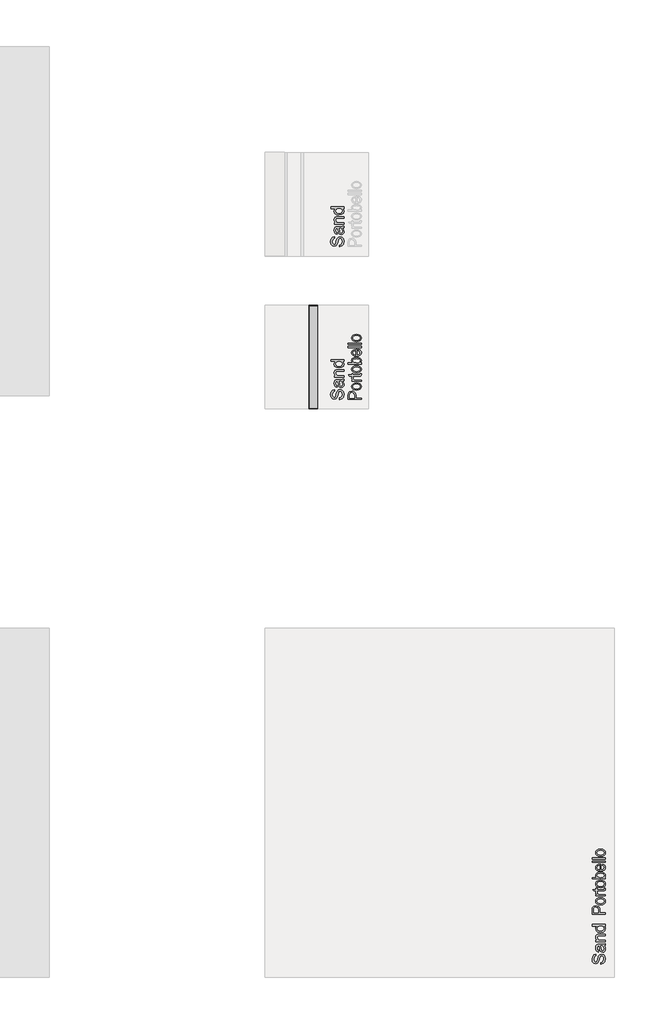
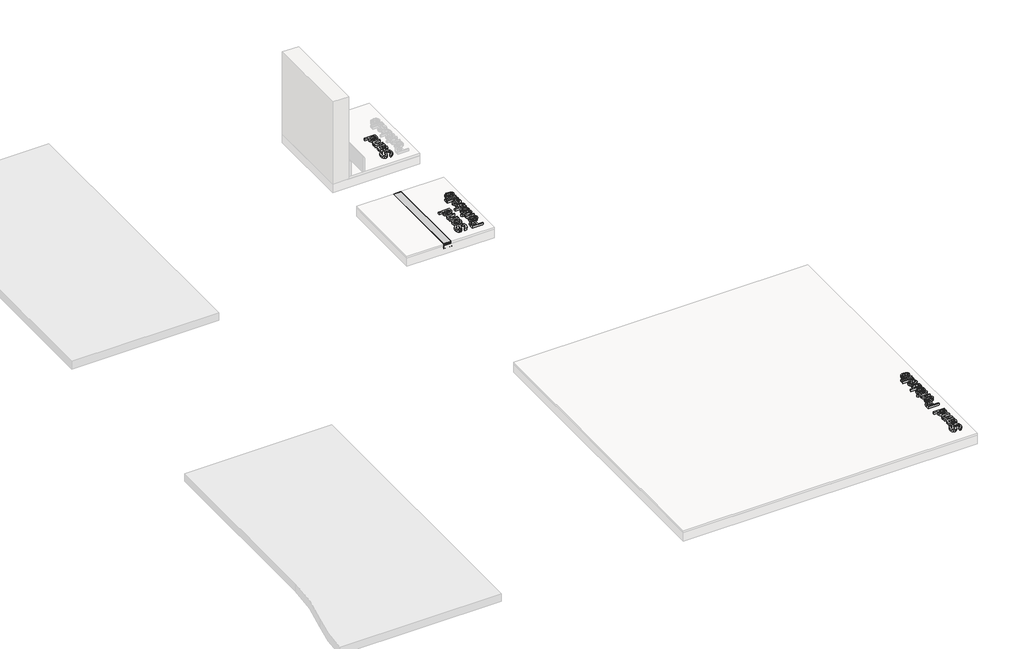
# One storey, part 4 of 6: 6 proxies.
"""IFC4 building model written with IfcOpenShell, lengths in millimetres."""

from ifc_helpers import new_model, si_unit, frame, origin, place, context, project, spatial, polyline, outline, extrude, transform, mapped, element, save
from components import line_sand_7a71f259

model = new_model("IFC4")

# Units and contexts
model_context = context("Model", 3, world=origin())
ifc_project = project(units=[si_unit("LENGTHUNIT", "METRE", prefix="MILLI")], contexts=[model_context])

# Site, building, storey
site = spatial("IfcSite", under=ifc_project)
building = spatial("IfcBuilding", under=site)
storey = spatial("IfcBuildingStorey", under=building, Name="PORTOBELLO - SHOWROOM", Elevation=0.0)

# Proxies
placement = place(None, origin())
element("IfcBuildingElementProxy", 1, Name="10mm Arial", ObjectType="10mm Arial", at=placement, inside=storey, context=model_context, shape_type="SweptSolid", body=[
    extrude(outline(polyline([(-7476.8537742, -1340.4641494), (-7476.8537742, -1327.9071107), (-7464.2844727, -1323.8604087), (-7456.3382216, -1313.9766458), (-7453.3093265, -1298.9180095), (-7455.6024576, -1285.796885), (-7461.9055025, -1277.3233363), (-7470.3300001, -1274.5396959), (-7478.1658866, -1276.6243606), (-7483.8680576, -1285.1592228), (-7488.6627862, -1303.442958), (-7494.8554665, -1323.1246447), (-7504.1996692, -1333.8054853), (-7516.6831315, -1337.3248898), (-7530.8956393, -1332.9716195), (-7540.926555, -1320.2551652), (-7544.3478576, -1301.6403362), (-7540.7671395, -1281.7747085), (-7530.2457144, -1268.5309567), (-7514.5248905, -1263.552287), (-7514.5248905, -1276.1093258), (-7522.0174205, -1278.4147196), (-7527.4252858, -1283.221711), (-7531.7908188, -1301.1498269), (-7527.4743367, -1319.1269937), (-7517.0510135, -1324.767851), (-7508.344473, -1320.7702), (-7501.3301896, -1300.2669101), (-7495.0271448, -1278.0468376), (-7484.8490762, -1265.894469), (-7470.6488312, -1261.9826571), (-7455.6269831, -1266.4830802), (-7444.6640996, -1279.4325264), (-7440.7522877, -1298.4275001), (-7444.9706679, -1320.8560391), (-7457.6748595, -1335.0440214), (-7476.8537742, -1340.4641494)])), frame((0.0, 0.0, 20.0), z_axis=(0.0, 0.0, 1.0), x_axis=(1.0, 0.0, 0.0)), (0.0, 0.0, 1.0), 20.0),
    extrude(outline(polyline([(-7451.7396967, -1197.6278335), (-7443.2293598, -1209.8047275), (-7440.7522877, -1223.2569458), (-7442.2422098, -1233.7507797), (-7446.7119761, -1241.49163), (-7453.4993989, -1246.2648989), (-7461.9422907, -1247.8559885), (-7471.8751045, -1245.4524928), (-7479.0855916, -1239.1371852), (-7483.20587, -1230.3448056), (-7485.0943309, -1219.480024), (-7489.410813, -1197.7014099), (-7492.2067161, -1197.6278335), (-7501.4773424, -1201.0859242), (-7505.1071114, -1214.9673382), (-7502.691353, -1227.6715297), (-7494.1197025, -1233.7293199), (-7495.6893324, -1246.2863587), (-7507.9520655, -1240.8539679), (-7515.1380272, -1229.9156099), (-7517.6641502, -1213.3486574), (-7515.4323328, -1198.1306055), (-7509.8282637, -1189.5344296), (-7501.3056641, -1185.6839313), (-7490.3182552, -1185.0707947), (-7474.6955332, -1185.0707947), (-7452.8801308, -1184.4331326), (-7442.3219176, -1181.931535), (-7442.3219176, -1194.4885738), (-7451.7396967, -1197.6278335)]), holes=[polyline([(-7476.8537742, -1197.6278335), (-7473.003276, -1217.8858687), (-7470.9676623, -1228.6893366), (-7467.6567243, -1233.5821671), (-7462.8252074, -1235.2989498), (-7456.0316533, -1231.5588161), (-7453.3093265, -1220.58367), (-7456.3136961, -1207.8794784), (-7463.5854969, -1199.6879726), (-7473.2975816, -1197.7014099), (-7476.8537742, -1197.6278335)])]), frame((0.0, 0.0, 20.0), z_axis=(0.0, 0.0, 1.0), x_axis=(1.0, 0.0, 0.0)), (0.0, 0.0, 1.0), 20.0),
    extrude(outline(polyline([(-7442.3219176, -1167.8048664), (-7516.0945203, -1167.8048664), (-7516.0945203, -1155.2478276), (-7505.7938245, -1155.2478276), (-7514.6965688, -1145.6461075), (-7517.6641502, -1132.5372458), (-7515.2729172, -1120.6791828), (-7508.9943978, -1112.5857789), (-7499.7605598, -1108.8211198), (-7487.6204539, -1108.1589322), (-7442.3219176, -1108.1589322), (-7442.3219176, -1120.715971), (-7485.9281967, -1120.715971), (-7497.038233, -1122.1629735), (-7502.9120822, -1127.2765332), (-7505.1071114, -1135.8972347), (-7500.1774927, -1149.5211312), (-7493.0344506, -1153.8161535), (-7481.4645619, -1155.2478276), (-7442.3219176, -1155.2478276), (-7442.3219176, -1167.8048664)])), frame((0.0, 0.0, 20.0), z_axis=(0.0, 0.0, 1.0), x_axis=(1.0, 0.0, 0.0)), (0.0, 0.0, 1.0), 20.0),
    extrude(outline(polyline([(-7442.3219176, -1045.3737384), (-7454.1677178, -1045.3737384), (-7444.1061453, -1053.6817401), (-7440.7522877, -1065.1657897), (-7445.6083301, -1080.7149354), (-7459.1586502, -1091.7023443), (-7479.1346426, -1095.6018935), (-7499.1228976, -1092.0089126), (-7512.8816843, -1081.2422329), (-7517.6641502, -1065.2148407), (-7514.2428476, -1053.6388205), (-7505.3523661, -1045.3737384), (-7542.7782277, -1045.3737384), (-7542.7782277, -1032.8166996), (-7442.3219176, -1032.8166996), (-7442.3219176, -1045.3737384)]), holes=[polyline([(-7479.1836935, -1083.0448547), (-7467.8253369, -1081.628509), (-7459.7472614, -1077.379472), (-7454.9188102, -1071.2051858), (-7453.3093265, -1064.0130928), (-7454.8452338, -1056.8240655), (-7459.4529558, -1050.8061292), (-7467.2183316, -1046.7318361), (-7478.2272003, -1045.3737384), (-7490.2630729, -1046.7563615), (-7498.6078628, -1050.904231), (-7503.4822993, -1057.0754515), (-7505.1071114, -1064.5281276), (-7503.5466786, -1071.793797), (-7498.8653802, -1077.747354), (-7490.824093, -1081.7204795), (-7479.1836935, -1083.0448547)])]), frame((0.0, 0.0, 20.0), z_axis=(0.0, 0.0, 1.0), x_axis=(1.0, 0.0, 0.0)), (0.0, 0.0, 1.0), 20.0),
])
element("IfcBuildingElementProxy", 2, Name="10mm Arial", ObjectType="10mm Arial", at=placement, inside=storey, context=model_context, shape_type="SweptSolid", body=[
    extrude(outline(polyline([(-7476.8537742, -2522.4641494), (-7476.8537742, -2509.9071107), (-7464.2844727, -2505.8604087), (-7456.3382216, -2495.9766458), (-7453.3093265, -2480.9180095), (-7455.6024576, -2467.796885), (-7461.9055025, -2459.3233363), (-7470.3300001, -2456.5396959), (-7478.1658866, -2458.6243606), (-7483.8680576, -2467.1592228), (-7488.6627862, -2485.442958), (-7494.8554665, -2505.1246447), (-7504.1996692, -2515.8054853), (-7516.6831315, -2519.3248898), (-7530.8956393, -2514.9716195), (-7540.926555, -2502.2551652), (-7544.3478576, -2483.6403362), (-7540.7671395, -2463.7747085), (-7530.2457144, -2450.5309567), (-7514.5248905, -2445.552287), (-7514.5248905, -2458.1093258), (-7522.0174205, -2460.4147196), (-7527.4252858, -2465.221711), (-7531.7908188, -2483.1498269), (-7527.4743367, -2501.1269937), (-7517.0510135, -2506.767851), (-7508.344473, -2502.7702), (-7501.3301896, -2482.2669101), (-7495.0271448, -2460.0468376), (-7484.8490762, -2447.894469), (-7470.6488312, -2443.9826571), (-7455.6269831, -2448.4830802), (-7444.6640996, -2461.4325264), (-7440.7522877, -2480.4275001), (-7444.9706679, -2502.8560391), (-7457.6748595, -2517.0440214), (-7476.8537742, -2522.4641494)])), frame((0.0, 0.0, 20.0), z_axis=(0.0, 0.0, 1.0), x_axis=(1.0, 0.0, 0.0)), (0.0, 0.0, 1.0), 20.0),
    extrude(outline(polyline([(-7451.7396967, -2379.6278335), (-7443.2293598, -2391.8047275), (-7440.7522877, -2405.2569458), (-7442.2422098, -2415.7507797), (-7446.7119761, -2423.49163), (-7453.4993989, -2428.2648989), (-7461.9422907, -2429.8559885), (-7471.8751045, -2427.4524928), (-7479.0855916, -2421.1371852), (-7483.20587, -2412.3448056), (-7485.0943309, -2401.480024), (-7489.410813, -2379.7014099), (-7492.2067161, -2379.6278335), (-7501.4773424, -2383.0859242), (-7505.1071114, -2396.9673382), (-7502.691353, -2409.6715297), (-7494.1197025, -2415.7293199), (-7495.6893324, -2428.2863587), (-7507.9520655, -2422.8539679), (-7515.1380272, -2411.9156099), (-7517.6641502, -2395.3486574), (-7515.4323328, -2380.1306055), (-7509.8282637, -2371.5344296), (-7501.3056641, -2367.6839313), (-7490.3182552, -2367.0707947), (-7474.6955332, -2367.0707947), (-7452.8801308, -2366.4331326), (-7442.3219176, -2363.931535), (-7442.3219176, -2376.4885738), (-7451.7396967, -2379.6278335)]), holes=[polyline([(-7476.8537742, -2379.6278335), (-7473.003276, -2399.8858687), (-7470.9676623, -2410.6893366), (-7467.6567243, -2415.5821671), (-7462.8252074, -2417.2989498), (-7456.0316533, -2413.5588161), (-7453.3093265, -2402.58367), (-7456.3136961, -2389.8794784), (-7463.5854969, -2381.6879726), (-7473.2975816, -2379.7014099), (-7476.8537742, -2379.6278335)])]), frame((0.0, 0.0, 20.0), z_axis=(0.0, 0.0, 1.0), x_axis=(1.0, 0.0, 0.0)), (0.0, 0.0, 1.0), 20.0),
    extrude(outline(polyline([(-7442.3219176, -2349.8048664), (-7516.0945203, -2349.8048664), (-7516.0945203, -2337.2478276), (-7505.7938245, -2337.2478276), (-7514.6965688, -2327.6461075), (-7517.6641502, -2314.5372458), (-7515.2729172, -2302.6791828), (-7508.9943978, -2294.5857789), (-7499.7605598, -2290.8211198), (-7487.6204539, -2290.1589322), (-7442.3219176, -2290.1589322), (-7442.3219176, -2302.715971), (-7485.9281967, -2302.715971), (-7497.038233, -2304.1629735), (-7502.9120822, -2309.2765332), (-7505.1071114, -2317.8972347), (-7500.1774927, -2331.5211312), (-7493.0344506, -2335.8161535), (-7481.4645619, -2337.2478276), (-7442.3219176, -2337.2478276), (-7442.3219176, -2349.8048664)])), frame((0.0, 0.0, 20.0), z_axis=(0.0, 0.0, 1.0), x_axis=(1.0, 0.0, 0.0)), (0.0, 0.0, 1.0), 20.0),
    extrude(outline(polyline([(-7442.3219176, -2227.3737384), (-7454.1677178, -2227.3737384), (-7444.1061453, -2235.6817401), (-7440.7522877, -2247.1657897), (-7445.6083301, -2262.7149354), (-7459.1586502, -2273.7023443), (-7479.1346426, -2277.6018935), (-7499.1228976, -2274.0089126), (-7512.8816843, -2263.2422329), (-7517.6641502, -2247.2148407), (-7514.2428476, -2235.6388205), (-7505.3523661, -2227.3737384), (-7542.7782277, -2227.3737384), (-7542.7782277, -2214.8166996), (-7442.3219176, -2214.8166996), (-7442.3219176, -2227.3737384)]), holes=[polyline([(-7479.1836935, -2265.0448547), (-7467.8253369, -2263.628509), (-7459.7472614, -2259.379472), (-7454.9188102, -2253.2051858), (-7453.3093265, -2246.0130928), (-7454.8452338, -2238.8240655), (-7459.4529558, -2232.8061292), (-7467.2183316, -2228.7318361), (-7478.2272003, -2227.3737384), (-7490.2630729, -2228.7563615), (-7498.6078628, -2232.904231), (-7503.4822993, -2239.0754515), (-7505.1071114, -2246.5281276), (-7503.5466786, -2253.793797), (-7498.8653802, -2259.747354), (-7490.824093, -2263.7204795), (-7479.1836935, -2265.0448547)])]), frame((0.0, 0.0, 20.0), z_axis=(0.0, 0.0, 1.0), x_axis=(1.0, 0.0, 0.0)), (0.0, 0.0, 1.0), 20.0),
])
element("IfcBuildingElementProxy", 3, Name="10mm Arial", ObjectType="10mm Arial", at=placement, inside=storey, context=model_context, shape_type="SweptSolid", body=[
    extrude(outline(polyline([(-5454.2002471, -6886.1929627), (-5454.2002471, -6873.6359239), (-5441.6309456, -6869.589222), (-5433.6846945, -6859.705459), (-5430.6557995, -6844.6468227), (-5432.9489306, -6831.5256982), (-5439.2519754, -6823.0521496), (-5447.6764731, -6820.2685092), (-5455.5123596, -6822.3531738), (-5461.2145305, -6830.8880361), (-5466.0092592, -6849.1717712), (-5472.2019394, -6868.853458), (-5481.5461421, -6879.5342986), (-5494.0296045, -6883.053703), (-5508.2421122, -6878.7004327), (-5518.273028, -6865.9839784), (-5521.6943305, -6847.3691495), (-5518.1136124, -6827.5035217), (-5507.5921874, -6814.2597699), (-5491.8713634, -6809.2811002), (-5491.8713634, -6821.838139), (-5499.3638934, -6824.1435328), (-5504.7717587, -6828.9505242), (-5509.1372918, -6846.8786401), (-5504.8208097, -6864.855807), (-5494.3974865, -6870.4966642), (-5485.6909459, -6866.4990132), (-5478.6766626, -6845.9957234), (-5472.3736177, -6823.7756508), (-5462.1955492, -6811.6232823), (-5447.9953042, -6807.7114704), (-5432.973456, -6812.2118935), (-5422.0105726, -6825.1613397), (-5418.0987607, -6844.1563134), (-5422.3171409, -6866.5848523), (-5435.0213325, -6880.7728346), (-5454.2002471, -6886.1929627)])), frame((0.0, 0.0, 20.0), z_axis=(0.0, 0.0, 1.0), x_axis=(1.0, 0.0, 0.0)), (0.0, 0.0, 1.0), 20.0),
    extrude(outline(polyline([(-5429.0861696, -6743.3566467), (-5420.5758328, -6755.5335407), (-5418.0987607, -6768.985759), (-5419.5886828, -6779.4795929), (-5424.058449, -6787.2204433), (-5430.8458718, -6791.9937121), (-5439.2887636, -6793.5848018), (-5449.2215775, -6791.1813061), (-5456.4320646, -6784.8659985), (-5460.5523429, -6776.0736188), (-5462.4408038, -6765.2088372), (-5466.7572859, -6743.4302231), (-5469.5531891, -6743.3566467), (-5478.8238154, -6746.8147375), (-5482.4535844, -6760.6961514), (-5480.0378259, -6773.400343), (-5471.4661755, -6779.4581332), (-5473.0358053, -6792.0151719), (-5485.2985385, -6786.5827811), (-5492.4845001, -6775.6444231), (-5495.0106231, -6759.0774706), (-5492.7788057, -6743.8594188), (-5487.1747366, -6735.2632428), (-5478.6521371, -6731.4127446), (-5467.6647282, -6730.7996079), (-5452.0420061, -6730.7996079), (-5430.2266038, -6730.1619458), (-5419.6683905, -6727.6603482), (-5419.6683905, -6740.217387), (-5429.0861696, -6743.3566467)]), holes=[polyline([(-5454.2002471, -6743.3566467), (-5450.3497489, -6763.6146819), (-5448.3141352, -6774.4181498), (-5445.0031973, -6779.3109804), (-5440.1716804, -6781.027763), (-5433.3781262, -6777.2876294), (-5430.6557995, -6766.3124832), (-5433.6601691, -6753.6082916), (-5440.9319699, -6745.4167859), (-5450.6440545, -6743.4302231), (-5454.2002471, -6743.3566467)])]), frame((0.0, 0.0, 20.0), z_axis=(0.0, 0.0, 1.0), x_axis=(1.0, 0.0, 0.0)), (0.0, 0.0, 1.0), 20.0),
    extrude(outline(polyline([(-5419.6683905, -6713.5336796), (-5493.4409933, -6713.5336796), (-5493.4409933, -6700.9766409), (-5483.1402974, -6700.9766409), (-5492.0430417, -6691.3749208), (-5495.0106231, -6678.266059), (-5492.6193902, -6666.407996), (-5486.3408708, -6658.3145921), (-5477.1070327, -6654.5499331), (-5464.9669269, -6653.8877455), (-5419.6683905, -6653.8877455), (-5419.6683905, -6666.4447842), (-5463.2746697, -6666.4447842), (-5474.3847059, -6667.8917868), (-5480.2585551, -6673.0053465), (-5482.4535844, -6681.6260479), (-5477.5239656, -6695.2499445), (-5470.3809236, -6699.5449668), (-5458.8110348, -6700.9766409), (-5419.6683905, -6700.9766409), (-5419.6683905, -6713.5336796)])), frame((0.0, 0.0, 20.0), z_axis=(0.0, 0.0, 1.0), x_axis=(1.0, 0.0, 0.0)), (0.0, 0.0, 1.0), 20.0),
    extrude(outline(polyline([(-5419.6683905, -6591.1025516), (-5431.5141908, -6591.1025516), (-5421.4526182, -6599.4105534), (-5418.0987607, -6610.894603), (-5422.954803, -6626.4437486), (-5436.5051232, -6637.4311576), (-5456.4811155, -6641.3307067), (-5476.4693706, -6637.7377259), (-5490.2281572, -6626.9710462), (-5495.0106231, -6610.9436539), (-5491.5893206, -6599.3676338), (-5482.698839, -6591.1025516), (-5520.1247007, -6591.1025516), (-5520.1247007, -6578.5455129), (-5419.6683905, -6578.5455129), (-5419.6683905, -6591.1025516)]), holes=[polyline([(-5456.5301664, -6628.7736679), (-5445.1718098, -6627.3573223), (-5437.0937344, -6623.1082852), (-5432.2652832, -6616.9339991), (-5430.6557995, -6609.741906), (-5432.1917068, -6602.5528787), (-5436.7994288, -6596.5349424), (-5444.5648046, -6592.4606493), (-5455.5736733, -6591.1025516), (-5467.6095459, -6592.4851748), (-5475.9543358, -6596.6330443), (-5480.8287722, -6602.8042648), (-5482.4535844, -6610.2569408), (-5480.8931516, -6617.5226102), (-5476.2118532, -6623.4761672), (-5468.1705659, -6627.4492928), (-5456.5301664, -6628.7736679)])]), frame((0.0, 0.0, 20.0), z_axis=(0.0, 0.0, 1.0), x_axis=(1.0, 0.0, 0.0)), (0.0, 0.0, 1.0), 20.0),
])
element("IfcBuildingElementProxy", 4, Name="10mm Arial Narrow", ObjectType="10mm Arial Narrow", at=placement, inside=storey, context=model_context, shape_type="SweptSolid", body=[
    extrude(outline(polyline([(-7307.3219176, -2520.6202008), (-7408.0405213, -2520.6202008), (-7408.0405213, -2489.3233161), (-7406.1622006, -2473.0276146), (-7396.6817574, -2461.5546285), (-7379.6626486, -2457.26495), (-7367.5868231, -2459.0512584), (-7357.9604293, -2464.4101836), (-7351.6591709, -2474.1539725), (-7349.5587514, -2489.0948717), (-7349.5587514, -2510.8732391), (-7307.3219176, -2510.8732391), (-7307.3219176, -2520.6202008)]), holes=[polyline([(-7360.9302067, -2510.8732391), (-7360.9302067, -2487.9018842), (-7365.4610209, -2472.0376888), (-7379.1296116, -2467.0119117), (-7389.2953881, -2469.4867262), (-7395.0953379, -2475.464355), (-7396.6690661, -2488.1303286), (-7396.6690661, -2510.8732391), (-7360.9302067, -2510.8732391)])]), frame((0.0, 0.0, 20.0), z_axis=(0.0, 0.0, 1.0), x_axis=(1.0, 0.0, 0.0)), (0.0, 0.0, 1.0), 20.0),
    extrude(outline(polyline([(-7343.8730238, -2449.142482), (-7360.4637993, -2447.1880131), (-7372.4158841, -2441.3246065), (-7379.6404387, -2432.4660398), (-7382.0486236, -2421.5260906), (-7379.6404387, -2410.7130551), (-7372.4158841, -2401.8291056), (-7360.6541697, -2395.8895509), (-7344.6345052, -2393.9096993), (-7327.4726186, -2395.8546496), (-7315.3301634, -2401.6895007), (-7308.1056088, -2410.5385489), (-7305.697424, -2421.5260906), (-7308.1119545, -2432.3867188), (-7315.3555461, -2441.2611497), (-7327.3139766, -2447.1721489), (-7343.8730238, -2449.142482)]), holes=[polyline([(-7343.8984065, -2439.3955203), (-7331.3466551, -2438.0914835), (-7322.475397, -2434.1793729), (-7317.2021385, -2428.3381761), (-7315.4443856, -2421.2468808), (-7317.2180027, -2414.5268076), (-7322.5388538, -2408.8347343), (-7331.4259761, -2404.9511793), (-7343.8984065, -2403.6566609), (-7356.4120838, -2404.9606978), (-7365.2706505, -2408.8728084), (-7370.5439091, -2414.7140051), (-7372.3016619, -2421.8053005), (-7370.5343906, -2428.5729662), (-7365.2325765, -2434.255521), (-7356.3644912, -2438.1105205), (-7343.8984065, -2439.3955203)])]), frame((0.0, 0.0, 20.0), z_axis=(0.0, 0.0, 1.0), x_axis=(1.0, 0.0, 0.0)), (0.0, 0.0, 1.0), 20.0),
    extrude(outline(polyline([(-7315.4443856, -2322.4319805), (-7305.697424, -2320.8074869), (-7305.697424, -2328.1684736), (-7307.8168805, -2336.4432379), (-7313.6168303, -2340.758299), (-7328.2626555, -2341.9259038), (-7370.6771683, -2341.9259038), (-7370.6771683, -2350.0483719), (-7373.9261555, -2350.0483719), (-7369.0526747, -2351.6728655), (-7370.6771683, -2359.2369138), (-7368.3546501, -2365.3160735), (-7361.869367, -2369.1869372), (-7346.4620605, -2371.1667888), (-7307.3219176, -2371.1667888), (-7307.3219176, -2380.9137504), (-7380.42413, -2380.9137504), (-7380.42413, -2371.1667888), (-7370.7279338, -2371.1667888), (-7379.8149449, -2364.9226415), (-7382.0486236, -2358.5261979), (-7380.42413, -2350.0483719), (-7380.42413, -2341.9259038), (-7396.6690661, -2341.9259038), (-7404.7915341, -2332.1789422), (-7380.42413, -2332.1789422), (-7380.42413, -2322.4319805), (-7370.6771683, -2322.4319805), (-7370.6771683, -2332.1789422), (-7326.0289768, -2332.1789422), (-7318.0334223, -2331.3159299), (-7315.4443856, -2326.6962762), (-7315.4443856, -2322.4319805)])), frame((0.0, 0.0, 20.0), z_axis=(0.0, 0.0, 1.0), x_axis=(1.0, 0.0, 0.0)), (0.0, 0.0, 1.0), 20.0),
    extrude(outline(polyline([(-7343.8730238, -2315.9340061), (-7360.4637993, -2313.9795372), (-7372.4158841, -2308.1161306), (-7379.6404387, -2299.2575639), (-7382.0486236, -2288.3176147), (-7379.6404387, -2277.5045791), (-7372.4158841, -2268.6206297), (-7360.6541697, -2262.6810749), (-7344.6345052, -2260.7012234), (-7327.4726186, -2262.6461737), (-7315.3301634, -2268.4810248), (-7308.1056088, -2277.330073), (-7305.697424, -2288.3176147), (-7308.1119545, -2299.1782429), (-7315.3555461, -2308.0526738), (-7327.3139766, -2313.963673), (-7343.8730238, -2315.9340061)]), holes=[polyline([(-7343.8984065, -2306.1870444), (-7331.3466551, -2304.8830075), (-7322.475397, -2300.970897), (-7317.2021385, -2295.1297002), (-7315.4443856, -2288.0384049), (-7317.2180027, -2281.3183317), (-7322.5388538, -2275.6262584), (-7331.4259761, -2271.7427034), (-7343.8984065, -2270.448185), (-7356.4120838, -2271.7522219), (-7365.2706505, -2275.6643325), (-7370.5439091, -2281.5055292), (-7372.3016619, -2288.5968246), (-7370.5343906, -2295.3644903), (-7365.2325765, -2301.0470451), (-7356.3644912, -2304.9020446), (-7343.8984065, -2306.1870444)])]), frame((0.0, 0.0, 20.0), z_axis=(0.0, 0.0, 1.0), x_axis=(1.0, 0.0, 0.0)), (0.0, 0.0, 1.0), 20.0),
    extrude(outline(polyline([(-7307.3219176, -2237.9583128), (-7307.3219176, -2247.7052745), (-7408.0405213, -2247.7052745), (-7408.0405213, -2237.9583128), (-7372.6316372, -2237.9583128), (-7379.713414, -2230.5592521), (-7382.0486236, -2221.3580188), (-7377.8477847, -2208.4762921), (-7365.1183543, -2199.1989106), (-7344.4314435, -2195.721479), (-7327.9771, -2197.653738), (-7315.7743609, -2203.450515), (-7308.2166582, -2211.8236373), (-7305.697424, -2221.4849323), (-7308.3118434, -2230.8257706), (-7316.0789534, -2237.9583128), (-7307.3219176, -2237.9583128)]), holes=[polyline([(-7344.4314435, -2237.9583128), (-7327.1838902, -2235.8769304), (-7318.4522371, -2229.9881411), (-7315.4443856, -2221.5356978), (-7317.2338669, -2215.5929702), (-7322.6023106, -2210.3546128), (-7344.0253201, -2205.4684407), (-7365.4610209, -2210.1769339), (-7370.5915017, -2215.4216369), (-7372.3016619, -2221.7387595), (-7370.5121807, -2227.7163883), (-7365.143737, -2233.0086839), (-7344.4314435, -2237.9583128)])]), frame((0.0, 0.0, 20.0), z_axis=(0.0, 0.0, 1.0), x_axis=(1.0, 0.0, 0.0)), (0.0, 0.0, 1.0), 20.0),
    extrude(outline(polyline([(-7330.0648281, -2143.7376835), (-7328.4403345, -2133.9907219), (-7318.5537679, -2137.6902522), (-7311.433917, -2143.5092391), (-7307.1315472, -2151.2128924), (-7305.697424, -2160.566422), (-7308.1119545, -2172.159976), (-7315.3555461, -2181.3040982), (-7327.1616804, -2187.243653), (-7343.2638387, -2189.2235046), (-7359.9307624, -2187.2341345), (-7372.1112916, -2181.2660242), (-7379.5642906, -2172.2519883), (-7382.0486236, -2161.1248417), (-7379.6499572, -2150.4418925), (-7372.4539582, -2141.6943752), (-7360.7144536, -2135.8595241), (-7344.6852706, -2133.9145737), (-7341.4362834, -2133.9907219), (-7341.4362834, -2179.4765429), (-7321.9931255, -2173.4735314), (-7317.0815706, -2167.5434951), (-7315.4443856, -2160.4395084), (-7319.0994962, -2150.2610407), (-7330.0648281, -2143.7376835)]), holes=[polyline([(-7351.183245, -2178.8165924), (-7351.183245, -2143.7376835), (-7365.4483295, -2148.0019792), (-7370.5883288, -2153.8273118), (-7372.3016619, -2161.0486935), (-7366.5905516, -2173.2577783), (-7351.183245, -2178.8165924)])]), frame((0.0, 0.0, 20.0), z_axis=(0.0, 0.0, 1.0), x_axis=(1.0, 0.0, 0.0)), (0.0, 0.0, 1.0), 20.0),
    extrude(outline(polyline([(-7307.3219176, -2120.994773), (-7408.0405213, -2120.994773), (-7408.0405213, -2111.2478113), (-7307.3219176, -2111.2478113), (-7307.3219176, -2120.994773)])), frame((0.0, 0.0, 20.0), z_axis=(0.0, 0.0, 1.0), x_axis=(1.0, 0.0, 0.0)), (0.0, 0.0, 1.0), 20.0),
    extrude(outline(polyline([(-7307.3219176, -2095.0028753), (-7408.0405213, -2095.0028753), (-7408.0405213, -2085.2559136), (-7307.3219176, -2085.2559136), (-7307.3219176, -2095.0028753)])), frame((0.0, 0.0, 20.0), z_axis=(0.0, 0.0, 1.0), x_axis=(1.0, 0.0, 0.0)), (0.0, 0.0, 1.0), 20.0),
    extrude(outline(polyline([(-7343.8730238, -2073.8844583), (-7360.4637993, -2071.9299895), (-7372.4158841, -2066.0665828), (-7379.6404387, -2057.2080161), (-7382.0486236, -2046.268067), (-7379.6404387, -2035.4550314), (-7372.4158841, -2026.571082), (-7360.6541697, -2020.6315272), (-7344.6345052, -2018.6516756), (-7327.4726186, -2020.596626), (-7315.3301634, -2026.4314771), (-7308.1056088, -2035.2805253), (-7305.697424, -2046.268067), (-7308.1119545, -2057.1286952), (-7315.3555461, -2066.0031261), (-7327.3139766, -2071.9141253), (-7343.8730238, -2073.8844583)]), holes=[polyline([(-7343.8984065, -2064.1374967), (-7331.3466551, -2062.8334598), (-7322.475397, -2058.9213492), (-7317.2021385, -2053.0801525), (-7315.4443856, -2045.9888571), (-7317.2180027, -2039.268784), (-7322.5388538, -2033.5767107), (-7331.4259761, -2029.6931556), (-7343.8984065, -2028.3986373), (-7356.4120838, -2029.7026741), (-7365.2706505, -2033.6147847), (-7370.5439091, -2039.4559815), (-7372.3016619, -2046.5472768), (-7370.5343906, -2053.3149426), (-7365.2325765, -2058.9974974), (-7356.3644912, -2062.8524969), (-7343.8984065, -2064.1374967)])]), frame((0.0, 0.0, 20.0), z_axis=(0.0, 0.0, 1.0), x_axis=(1.0, 0.0, 0.0)), (0.0, 0.0, 1.0), 20.0),
])
element("IfcBuildingElementProxy", 5, Name="10mm Arial Narrow", ObjectType="10mm Arial Narrow", at=placement, inside=storey, context=model_context, shape_type="SweptSolid", body=[
    extrude(outline(polyline([(-5419.6683905, -6498.7652774), (-5520.3869943, -6498.7652774), (-5520.3869943, -6467.4683927), (-5518.5086735, -6451.1726912), (-5509.0282304, -6439.6997051), (-5492.0091216, -6435.4100267), (-5479.933296, -6437.1963351), (-5470.3069022, -6442.5552603), (-5464.0056438, -6452.2990491), (-5461.9052244, -6467.2399483), (-5461.9052244, -6489.0183158), (-5419.6683905, -6489.0183158), (-5419.6683905, -6498.7652774)]), holes=[polyline([(-5473.2766796, -6489.0183158), (-5473.2766796, -6466.0469608), (-5477.8074938, -6450.1827654), (-5491.4760846, -6445.1569883), (-5501.641861, -6447.6318028), (-5507.4418108, -6453.6094316), (-5509.015539, -6466.2754052), (-5509.015539, -6489.0183158), (-5473.2766796, -6489.0183158)])]), frame((0.0, 0.0, 20.0), z_axis=(0.0, 0.0, 1.0), x_axis=(1.0, 0.0, 0.0)), (0.0, 0.0, 1.0), 20.0),
    extrude(outline(polyline([(-5456.2194967, -6427.2875586), (-5472.8102723, -6425.3330898), (-5484.7623571, -6419.4696831), (-5491.9869117, -6410.6111164), (-5494.3950965, -6399.6711673), (-5491.9869117, -6388.8581317), (-5484.7623571, -6379.9741823), (-5473.0006426, -6374.0346275), (-5456.9809781, -6372.0547759), (-5439.8190915, -6373.9997263), (-5427.6766364, -6379.8345774), (-5420.4520818, -6388.6836255), (-5418.0438969, -6399.6711673), (-5420.4584275, -6410.5317955), (-5427.7020191, -6419.4062264), (-5439.6604496, -6425.3172256), (-5456.2194967, -6427.2875586)]), holes=[polyline([(-5456.2448794, -6417.540597), (-5443.693128, -6416.2365601), (-5434.82187, -6412.3244495), (-5429.5486114, -6406.4832528), (-5427.7908586, -6399.3919574), (-5429.5644756, -6392.6718843), (-5434.8853268, -6386.979811), (-5443.772449, -6383.0962559), (-5456.2448794, -6381.8017376), (-5468.7585568, -6383.1057744), (-5477.6171235, -6387.017885), (-5482.890382, -6392.8590818), (-5484.6481349, -6399.9503771), (-5482.8808635, -6406.7180429), (-5477.5790494, -6412.4005977), (-5468.7109642, -6416.2555972), (-5456.2448794, -6417.540597)])]), frame((0.0, 0.0, 20.0), z_axis=(0.0, 0.0, 1.0), x_axis=(1.0, 0.0, 0.0)), (0.0, 0.0, 1.0), 20.0),
    extrude(outline(polyline([(-5427.7908586, -6300.5770571), (-5418.0438969, -6298.9525635), (-5418.0438969, -6306.3135502), (-5420.1633534, -6314.5883145), (-5425.9633033, -6318.9033757), (-5440.6091285, -6320.0709804), (-5483.0236413, -6320.0709804), (-5483.0236413, -6328.1934485), (-5486.2726285, -6328.1934485), (-5481.3991477, -6329.8179421), (-5483.0236413, -6337.3819905), (-5480.7011231, -6343.4611501), (-5474.21584, -6347.3320138), (-5458.8085334, -6349.3118654), (-5419.6683905, -6349.3118654), (-5419.6683905, -6359.0588271), (-5492.7706029, -6359.0588271), (-5492.7706029, -6349.3118654), (-5483.0744067, -6349.3118654), (-5492.1614178, -6343.0677181), (-5494.3950965, -6336.6712745), (-5492.7706029, -6328.1934485), (-5492.7706029, -6320.0709804), (-5509.015539, -6320.0709804), (-5517.1380071, -6310.3240188), (-5492.7706029, -6310.3240188), (-5492.7706029, -6300.5770571), (-5483.0236413, -6300.5770571), (-5483.0236413, -6310.3240188), (-5438.3754497, -6310.3240188), (-5430.3798953, -6309.4610066), (-5427.7908586, -6304.8413529), (-5427.7908586, -6300.5770571)])), frame((0.0, 0.0, 20.0), z_axis=(0.0, 0.0, 1.0), x_axis=(1.0, 0.0, 0.0)), (0.0, 0.0, 1.0), 20.0),
    extrude(outline(polyline([(-5456.2194967, -6294.0790827), (-5472.8102723, -6292.1246138), (-5484.7623571, -6286.2612072), (-5491.9869117, -6277.4026405), (-5494.3950965, -6266.4626914), (-5491.9869117, -6255.6496558), (-5484.7623571, -6246.7657063), (-5473.0006426, -6240.8261516), (-5456.9809781, -6238.8463), (-5439.8190915, -6240.7912504), (-5427.6766364, -6246.6261014), (-5420.4520818, -6255.4751496), (-5418.0438969, -6266.4626914), (-5420.4584275, -6277.3233195), (-5427.7020191, -6286.1977504), (-5439.6604496, -6292.1087496), (-5456.2194967, -6294.0790827)]), holes=[polyline([(-5456.2448794, -6284.332121), (-5443.693128, -6283.0280842), (-5434.82187, -6279.1159736), (-5429.5486114, -6273.2747769), (-5427.7908586, -6266.1834815), (-5429.5644756, -6259.4634083), (-5434.8853268, -6253.771335), (-5443.772449, -6249.88778), (-5456.2448794, -6248.5932617), (-5468.7585568, -6249.8972985), (-5477.6171235, -6253.8094091), (-5482.890382, -6259.6506058), (-5484.6481349, -6266.7419012), (-5482.8808635, -6273.5095669), (-5477.5790494, -6279.1921217), (-5468.7109642, -6283.0471212), (-5456.2448794, -6284.332121)])]), frame((0.0, 0.0, 20.0), z_axis=(0.0, 0.0, 1.0), x_axis=(1.0, 0.0, 0.0)), (0.0, 0.0, 1.0), 20.0),
    extrude(outline(polyline([(-5419.6683905, -6216.1033895), (-5419.6683905, -6225.8503511), (-5520.3869943, -6225.8503511), (-5520.3869943, -6216.1033895), (-5484.9781102, -6216.1033895), (-5492.059887, -6208.7043287), (-5494.3950965, -6199.5030954), (-5490.1942576, -6186.6213687), (-5477.4648272, -6177.3439873), (-5456.7779164, -6173.8665556), (-5440.3235729, -6175.7988146), (-5428.1208338, -6181.5955916), (-5420.5631312, -6189.968714), (-5418.0438969, -6199.630009), (-5420.6583163, -6208.9708472), (-5428.4254264, -6216.1033895), (-5419.6683905, -6216.1033895)]), holes=[polyline([(-5456.7779164, -6216.1033895), (-5439.5303632, -6214.022007), (-5430.79871, -6208.1332177), (-5427.7908586, -6199.6807744), (-5429.5803398, -6193.7380468), (-5434.9487835, -6188.4996895), (-5456.371793, -6183.6135173), (-5477.8074938, -6188.3220105), (-5482.9379746, -6193.5667135), (-5484.6481349, -6199.8838361), (-5482.8586536, -6205.8614649), (-5477.4902099, -6211.1537605), (-5456.7779164, -6216.1033895)])]), frame((0.0, 0.0, 20.0), z_axis=(0.0, 0.0, 1.0), x_axis=(1.0, 0.0, 0.0)), (0.0, 0.0, 1.0), 20.0),
    extrude(outline(polyline([(-5442.4113011, -6121.8827602), (-5440.7868074, -6112.1357985), (-5430.9002409, -6115.8353289), (-5423.78039, -6121.6543157), (-5419.4780202, -6129.357969), (-5418.0438969, -6138.7114986), (-5420.4584275, -6150.3050526), (-5427.7020191, -6159.4491749), (-5439.5081533, -6165.3887296), (-5455.6103116, -6167.3685812), (-5472.2772353, -6165.3792111), (-5484.4577645, -6159.4111008), (-5491.9107635, -6150.397065), (-5494.3950965, -6139.2699183), (-5491.9964302, -6128.5869691), (-5484.8004312, -6119.8394518), (-5473.0609266, -6114.0046007), (-5457.0317435, -6112.0596504), (-5453.7827563, -6112.1357985), (-5453.7827563, -6157.6216196), (-5434.3395984, -6151.618608), (-5429.4280435, -6145.6885718), (-5427.7908586, -6138.5845851), (-5431.4459692, -6128.4061173), (-5442.4113011, -6121.8827602)]), holes=[polyline([(-5463.529718, -6156.961669), (-5463.529718, -6121.8827602), (-5477.7948025, -6126.1470559), (-5482.9348018, -6131.9723884), (-5484.6481349, -6139.1937702), (-5478.9370245, -6151.402855), (-5463.529718, -6156.961669)])]), frame((0.0, 0.0, 20.0), z_axis=(0.0, 0.0, 1.0), x_axis=(1.0, 0.0, 0.0)), (0.0, 0.0, 1.0), 20.0),
    extrude(outline(polyline([(-5419.6683905, -6099.1398496), (-5520.3869943, -6099.1398496), (-5520.3869943, -6089.392888), (-5419.6683905, -6089.392888), (-5419.6683905, -6099.1398496)])), frame((0.0, 0.0, 20.0), z_axis=(0.0, 0.0, 1.0), x_axis=(1.0, 0.0, 0.0)), (0.0, 0.0, 1.0), 20.0),
    extrude(outline(polyline([(-5419.6683905, -6073.1479519), (-5520.3869943, -6073.1479519), (-5520.3869943, -6063.4009902), (-5419.6683905, -6063.4009902), (-5419.6683905, -6073.1479519)])), frame((0.0, 0.0, 20.0), z_axis=(0.0, 0.0, 1.0), x_axis=(1.0, 0.0, 0.0)), (0.0, 0.0, 1.0), 20.0),
    extrude(outline(polyline([(-5456.2194967, -6052.029535), (-5472.8102723, -6050.0750661), (-5484.7623571, -6044.2116595), (-5491.9869117, -6035.3530928), (-5494.3950965, -6024.4131436), (-5491.9869117, -6013.600108), (-5484.7623571, -6004.7161586), (-5473.0006426, -5998.7766039), (-5456.9809781, -5996.7967523), (-5439.8190915, -5998.7417026), (-5427.6766364, -6004.5765537), (-5420.4520818, -6013.4256019), (-5418.0438969, -6024.4131436), (-5420.4584275, -6035.2737718), (-5427.7020191, -6044.1482027), (-5439.6604496, -6050.0592019), (-5456.2194967, -6052.029535)]), holes=[polyline([(-5456.2448794, -6042.2825733), (-5443.693128, -6040.9785365), (-5434.82187, -6037.0664259), (-5429.5486114, -6031.2252291), (-5427.7908586, -6024.1339338), (-5429.5644756, -6017.4138606), (-5434.8853268, -6011.7217873), (-5443.772449, -6007.8382323), (-5456.2448794, -6006.5437139), (-5468.7585568, -6007.8477508), (-5477.6171235, -6011.7598614), (-5482.890382, -6017.6010581), (-5484.6481349, -6024.6923535), (-5482.8808635, -6031.4600192), (-5477.5790494, -6037.142574), (-5468.7109642, -6040.9975735), (-5456.2448794, -6042.2825733)])]), frame((0.0, 0.0, 20.0), z_axis=(0.0, 0.0, 1.0), x_axis=(1.0, 0.0, 0.0)), (0.0, 0.0, 1.0), 20.0),
])
line_sand_shape = line_sand_7a71f259(model_context)
element("IfcBuildingElementProxy", 6, Name="PORTOBELLO - RALO MONOLITH LINE SAND 60X7X4,6 EXT BOLD : LINE SAND", ObjectType="PORTOBELLO - RALO MONOLITH LINE SAND 60X7X4,6 EXT BOLD : LINE SAND", at=placement, inside=storey, context=model_context, shape_type="MappedRepresentation", body=[
    mapped(line_sand_shape, transform((-7643.0784146, -2593.108239, 20.0), x_axis=(0.0, 1.0, 0.0), y_axis=(-1.0, 0.0, 0.0), z_axis=(0.0, 0.0, 1.0))),
])

save(model, "model.ifc")
